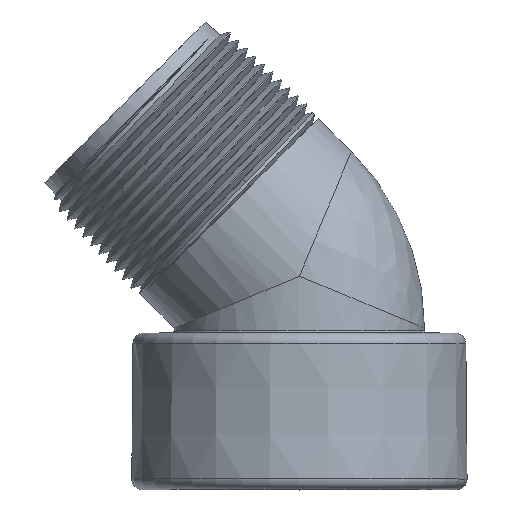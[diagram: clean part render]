
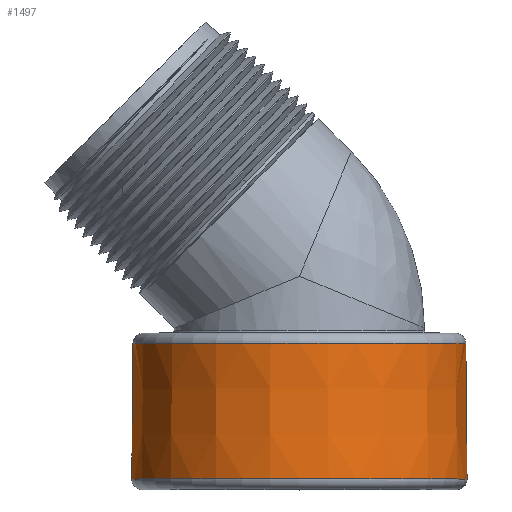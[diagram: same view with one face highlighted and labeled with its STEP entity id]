
A CAD part, top view. The second image highlights one B-rep face of the part: STEP entity #1497.
In plain terms, the highlighted conical face has half-angle 0.511 degrees and reference radius 31.687 mm.
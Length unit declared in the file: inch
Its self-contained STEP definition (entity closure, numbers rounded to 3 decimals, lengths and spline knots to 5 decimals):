
#292=VECTOR('',#1720,1.);
#293=VECTOR('',#1723,1.);
#333=LINE('',#43698,#292);
#334=LINE('',#43702,#293);
#340=CONICAL_SURFACE('',#1564,1.24753,0.009);
#477=VERTEX_POINT('',#43692);
#478=VERTEX_POINT('',#43694);
#479=VERTEX_POINT('',#43699);
#480=VERTEX_POINT('',#43701);
#530=CIRCLE('',#1563,1.24302);
#531=CIRCLE('',#1565,1.25205);
#745=EDGE_CURVE('',#478,#477,#530,.F.);
#746=EDGE_CURVE('',#479,#478,#333,.T.);
#747=EDGE_CURVE('',#479,#480,#531,.F.);
#748=EDGE_CURVE('',#480,#477,#334,.T.);
#1177=ORIENTED_EDGE('',*,*,#746,.F.);
#1178=ORIENTED_EDGE('',*,*,#747,.T.);
#1179=ORIENTED_EDGE('',*,*,#748,.T.);
#1180=ORIENTED_EDGE('',*,*,#745,.F.);
#1323=EDGE_LOOP('',(#1177,#1178,#1179,#1180));
#1412=FACE_BOUND('',#1323,.T.);
#1497=ADVANCED_FACE('',(#1412),#340,.T.);
#1563=AXIS2_PLACEMENT_3D('',#43696,#1716,#1717);
#1564=AXIS2_PLACEMENT_3D('',#43697,#1718,#1719);
#1565=AXIS2_PLACEMENT_3D('',#43700,#1721,#1722);
#1716=DIRECTION('',(0.,-1.,0.));
#1717=DIRECTION('',(-1.243,0.,0.));
#1718=DIRECTION('',(0.,-1.,0.));
#1719=DIRECTION('',(-1.248,0.,0.));
#1720=DIRECTION('',(0.009,1.,0.));
#1721=DIRECTION('',(0.,-1.,0.));
#1722=DIRECTION('',(-1.252,0.,0.));
#1723=DIRECTION('',(-0.009,1.,0.));
#43692=CARTESIAN_POINT('',(1.24302,-0.07804,0.));
#43694=CARTESIAN_POINT('',(-1.24302,-0.07804,0.));
#43696=CARTESIAN_POINT('',(0.,-0.07804,0.));
#43697=CARTESIAN_POINT('',(0.,-0.58414,0.));
#43698=CARTESIAN_POINT('',(-1.25205,-1.09024,0.));
#43699=CARTESIAN_POINT('',(-1.25205,-1.09024,0.));
#43700=CARTESIAN_POINT('',(0.,-1.09024,0.));
#43701=CARTESIAN_POINT('',(1.25205,-1.09024,0.));
#43702=CARTESIAN_POINT('',(1.25205,-1.09024,0.));
